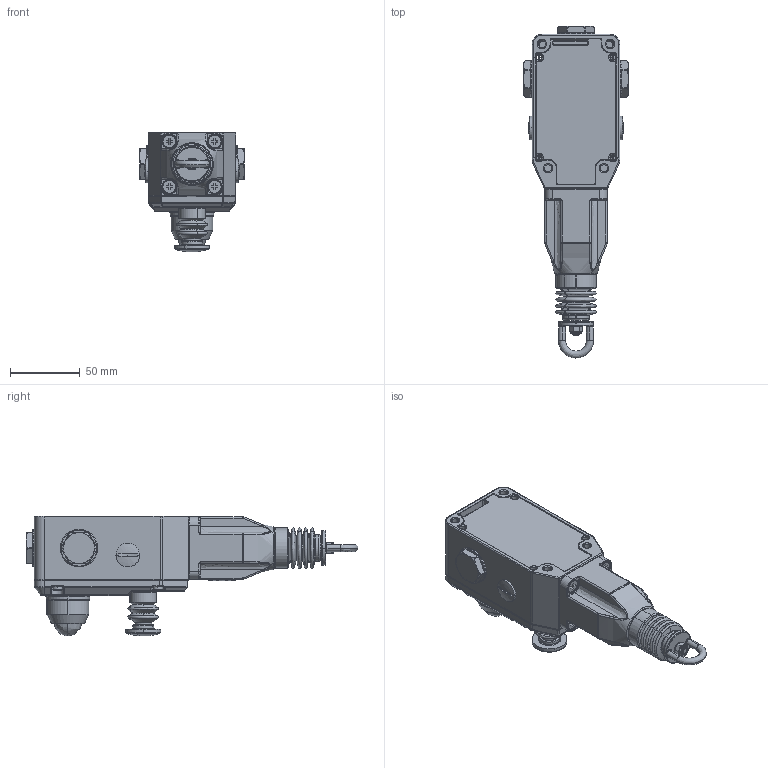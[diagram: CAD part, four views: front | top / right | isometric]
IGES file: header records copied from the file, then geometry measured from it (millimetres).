
Start section: SolidWorks IGES file using analytic representation for surfaces
Global section: file name: Q:\GROUPS\WAU_SBC_ITEC\ENGENHARIA\FERRAMENTARIA\Leandro Silva\PROJETOS EM ANDAMENTO E CLAIM - 2014\EM ANDAMENTO - DESENHOS CHAVES - LEANDRO\CEC-ME...A\CEC-ME...A.IGS; native system: SolidWorks 2015; preprocessor: SolidWorks 2015; author: silval; date: 151027.134743; units: millimetre
Bounding box: 75 x 237.99 x 86 mm (x, y, z)
Surface area: 61094.5 mm2 (no closed solid volume)
Topology: 0 solids, 0 shells, 954 faces, 8890 edges, 8861 vertices
Faces by surface type: bspline 520, revolution 434
